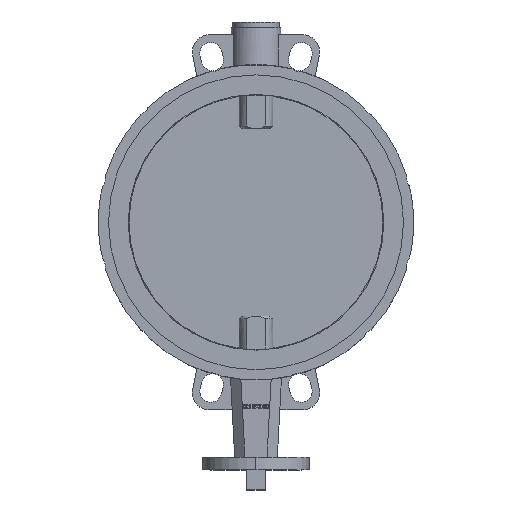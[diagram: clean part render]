
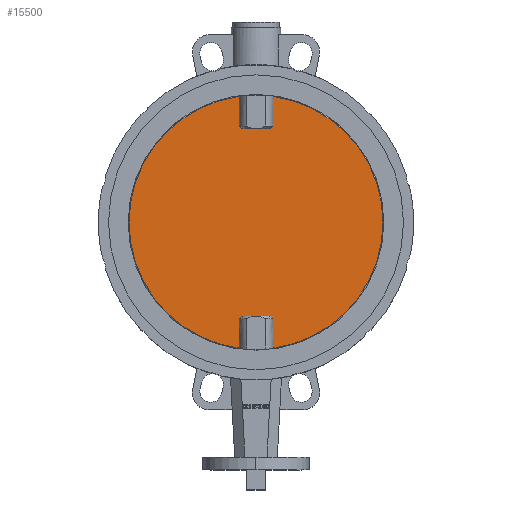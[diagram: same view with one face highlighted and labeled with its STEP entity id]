
A CAD part, top view. The second image highlights one B-rep face of the part: STEP entity #15500.
In plain terms, the highlighted planar face has unit normal (0, 0, 1).
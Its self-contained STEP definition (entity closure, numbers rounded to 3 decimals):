
#14470=CARTESIAN_POINT('',(149.0,0.,41.5));
#14471=VERTEX_POINT('',#14470);
#14494=CARTESIAN_POINT('',(-149.0,0.,41.5));
#14495=VERTEX_POINT('',#14494);
#14502=CARTESIAN_POINT('',(-19.843,147.673,41.5));
#14503=VERTEX_POINT('',#14502);
#14504=CARTESIAN_POINT('',(0.0,0.0,41.5));
#14505=DIRECTION('',(0.0,0.0,-1.0));
#14506=DIRECTION('',(1.0,0.0,0.0));
#14507=AXIS2_PLACEMENT_3D('',#14504,#14505,#14506);
#14508=CIRCLE('',#14507,149.0);
#14509=EDGE_CURVE('',#14495,#14503,#14508,.T.);
#14531=CARTESIAN_POINT('',(19.843,147.673,41.5));
#14532=VERTEX_POINT('',#14531);
#14542=CARTESIAN_POINT('',(0.0,0.0,41.5));
#14543=DIRECTION('',(0.0,0.0,-1.0));
#14544=DIRECTION('',(1.0,0.0,0.0));
#14545=AXIS2_PLACEMENT_3D('',#14542,#14543,#14544);
#14546=CIRCLE('',#14545,149.0);
#14547=EDGE_CURVE('',#14532,#14471,#14546,.T.);
#15125=CARTESIAN_POINT('',(-16.815,110.0,41.5));
#15126=VERTEX_POINT('',#15125);
#15134=CARTESIAN_POINT('',(16.815,110.0,41.5));
#15135=VERTEX_POINT('',#15134);
#15136=CARTESIAN_POINT('',(-16.815,110.0,41.5));
#15137=DIRECTION('',(1.0,0.0,0.0));
#15138=VECTOR('',#15137,33.63);
#15139=LINE('',#15136,#15138);
#15140=EDGE_CURVE('',#15126,#15135,#15139,.T.);
#15158=CARTESIAN_POINT('',(-19.843,113.0,41.5));
#15159=VERTEX_POINT('',#15158);
#15167=CARTESIAN_POINT('',(-19.843,113.0,41.5));
#15168=CARTESIAN_POINT('',(-18.206,111.376,41.5));
#15169=CARTESIAN_POINT('',(-16.815,110.0,41.5));
#15177=(BOUNDED_CURVE()B_SPLINE_CURVE(2,(#15167,#15168,#15169),.UNSPECIFIED.,.F.,.U.)B_SPLINE_CURVE_WITH_KNOTS((3,3),(0.0,4.262),.UNSPECIFIED.)CURVE()GEOMETRIC_REPRESENTATION_ITEM()RATIONAL_B_SPLINE_CURVE((1.0,1.003,1.0))REPRESENTATION_ITEM(''));
#15178=EDGE_CURVE('',#15159,#15126,#15177,.T.);
#15198=CARTESIAN_POINT('',(-19.843,147.673,41.5));
#15199=DIRECTION('',(0.0,-1.0,0.0));
#15200=VECTOR('',#15199,34.673);
#15201=LINE('',#15198,#15200);
#15202=EDGE_CURVE('',#14503,#15159,#15201,.T.);
#15214=CARTESIAN_POINT('',(16.815,-110.,41.5));
#15215=VERTEX_POINT('',#15214);
#15223=CARTESIAN_POINT('',(-16.815,-110.,41.5));
#15224=VERTEX_POINT('',#15223);
#15225=CARTESIAN_POINT('',(16.815,-110.,41.5));
#15226=DIRECTION('',(-1.0,0.0,0.0));
#15227=VECTOR('',#15226,33.63);
#15228=LINE('',#15225,#15227);
#15229=EDGE_CURVE('',#15215,#15224,#15228,.T.);
#15247=CARTESIAN_POINT('',(19.843,-113.,41.5));
#15248=VERTEX_POINT('',#15247);
#15256=CARTESIAN_POINT('',(19.843,-113.,41.5));
#15257=CARTESIAN_POINT('',(18.206,-111.376,41.5));
#15258=CARTESIAN_POINT('',(16.815,-110.,41.5));
#15266=(BOUNDED_CURVE()B_SPLINE_CURVE(2,(#15256,#15257,#15258),.UNSPECIFIED.,.F.,.U.)B_SPLINE_CURVE_WITH_KNOTS((3,3),(0.0,4.262),.UNSPECIFIED.)CURVE()GEOMETRIC_REPRESENTATION_ITEM()RATIONAL_B_SPLINE_CURVE((1.0,1.003,1.0))REPRESENTATION_ITEM(''));
#15267=EDGE_CURVE('',#15248,#15215,#15266,.T.);
#15309=CARTESIAN_POINT('',(19.843,-147.673,41.5));
#15310=VERTEX_POINT('',#15309);
#15320=CARTESIAN_POINT('',(19.843,-147.673,41.5));
#15321=DIRECTION('',(0.0,1.0,0.0));
#15322=VECTOR('',#15321,34.673);
#15323=LINE('',#15320,#15322);
#15324=EDGE_CURVE('',#15310,#15248,#15323,.T.);
#15427=CARTESIAN_POINT('',(0.0,0.0,41.5));
#15428=DIRECTION('',(0.0,0.0,1.0));
#15429=DIRECTION('',(-1.0,0.0,0.0));
#15430=AXIS2_PLACEMENT_3D('',#15427,#15428,#15429);
#15431=PLANE('',#15430);
#15432=CARTESIAN_POINT('',(-19.843,-113.,41.5));
#15433=VERTEX_POINT('',#15432);
#15434=CARTESIAN_POINT('',(-19.843,-147.673,41.5));
#15435=VERTEX_POINT('',#15434);
#15436=CARTESIAN_POINT('',(-19.843,-113.,41.5));
#15437=DIRECTION('',(0.0,-1.0,0.0));
#15438=VECTOR('',#15437,34.673);
#15439=LINE('',#15436,#15438);
#15440=EDGE_CURVE('',#15433,#15435,#15439,.T.);
#15441=ORIENTED_EDGE('',*,*,#15440,.F.);
#15442=CARTESIAN_POINT('',(-16.815,-110.,41.5));
#15443=CARTESIAN_POINT('',(-18.206,-111.376,41.5));
#15444=CARTESIAN_POINT('',(-19.843,-113.,41.5));
#15452=(BOUNDED_CURVE()B_SPLINE_CURVE(2,(#15442,#15443,#15444),.UNSPECIFIED.,.F.,.U.)B_SPLINE_CURVE_WITH_KNOTS((3,3),(0.0,4.262),.UNSPECIFIED.)CURVE()GEOMETRIC_REPRESENTATION_ITEM()RATIONAL_B_SPLINE_CURVE((1.0,1.003,1.0))REPRESENTATION_ITEM(''));
#15453=EDGE_CURVE('',#15224,#15433,#15452,.T.);
#15454=ORIENTED_EDGE('',*,*,#15453,.F.);
#15455=ORIENTED_EDGE('',*,*,#15229,.F.);
#15456=ORIENTED_EDGE('',*,*,#15267,.F.);
#15457=ORIENTED_EDGE('',*,*,#15324,.F.);
#15458=CARTESIAN_POINT('',(0.0,0.0,41.5));
#15459=DIRECTION('',(0.0,0.0,-1.0));
#15460=DIRECTION('',(1.0,0.0,0.0));
#15461=AXIS2_PLACEMENT_3D('',#15458,#15459,#15460);
#15462=CIRCLE('',#15461,149.0);
#15463=EDGE_CURVE('',#14471,#15310,#15462,.T.);
#15464=ORIENTED_EDGE('',*,*,#15463,.F.);
#15465=ORIENTED_EDGE('',*,*,#14547,.F.);
#15466=CARTESIAN_POINT('',(19.843,113.0,41.5));
#15467=VERTEX_POINT('',#15466);
#15468=CARTESIAN_POINT('',(19.843,113.0,41.5));
#15469=DIRECTION('',(0.0,1.0,0.0));
#15470=VECTOR('',#15469,34.673);
#15471=LINE('',#15468,#15470);
#15472=EDGE_CURVE('',#15467,#14532,#15471,.T.);
#15473=ORIENTED_EDGE('',*,*,#15472,.F.);
#15474=CARTESIAN_POINT('',(16.815,110.0,41.5));
#15475=CARTESIAN_POINT('',(18.206,111.376,41.5));
#15476=CARTESIAN_POINT('',(19.843,113.0,41.5));
#15484=(BOUNDED_CURVE()B_SPLINE_CURVE(2,(#15474,#15475,#15476),.UNSPECIFIED.,.F.,.U.)B_SPLINE_CURVE_WITH_KNOTS((3,3),(0.0,4.262),.UNSPECIFIED.)CURVE()GEOMETRIC_REPRESENTATION_ITEM()RATIONAL_B_SPLINE_CURVE((1.0,1.003,1.0))REPRESENTATION_ITEM(''));
#15485=EDGE_CURVE('',#15135,#15467,#15484,.T.);
#15486=ORIENTED_EDGE('',*,*,#15485,.F.);
#15487=ORIENTED_EDGE('',*,*,#15140,.F.);
#15488=ORIENTED_EDGE('',*,*,#15178,.F.);
#15489=ORIENTED_EDGE('',*,*,#15202,.F.);
#15490=ORIENTED_EDGE('',*,*,#14509,.F.);
#15491=CARTESIAN_POINT('',(0.0,0.0,41.5));
#15492=DIRECTION('',(0.0,0.0,-1.0));
#15493=DIRECTION('',(1.0,0.0,0.0));
#15494=AXIS2_PLACEMENT_3D('',#15491,#15492,#15493);
#15495=CIRCLE('',#15494,149.0);
#15496=EDGE_CURVE('',#15435,#14495,#15495,.T.);
#15497=ORIENTED_EDGE('',*,*,#15496,.F.);
#15498=EDGE_LOOP('',(#15441,#15454,#15455,#15456,#15457,#15464,#15465,#15473,#15486,#15487,#15488,#15489,#15490,#15497));
#15499=FACE_OUTER_BOUND('',#15498,.T.);
#15500=ADVANCED_FACE('',(#15499),#15431,.T.);
